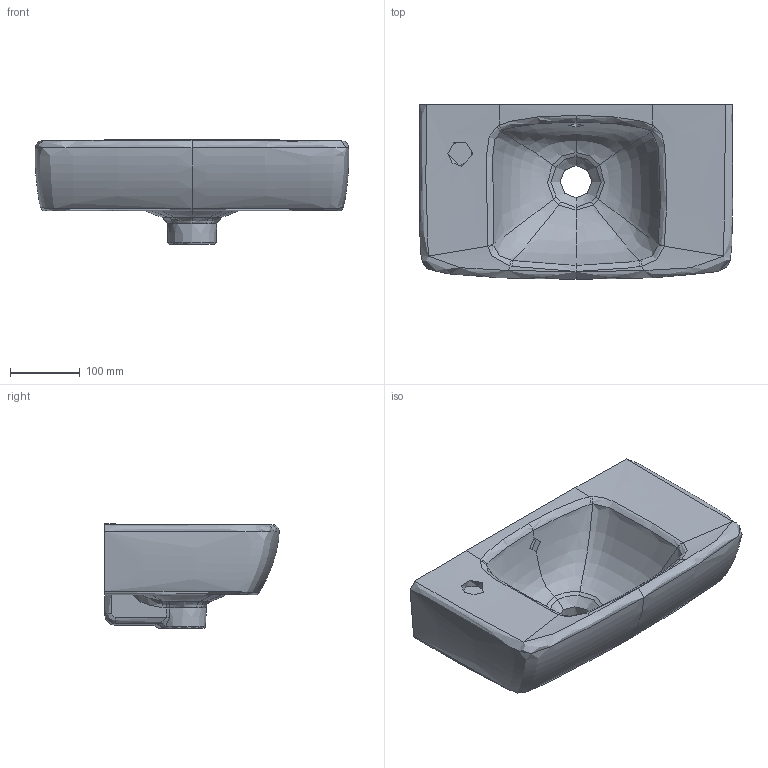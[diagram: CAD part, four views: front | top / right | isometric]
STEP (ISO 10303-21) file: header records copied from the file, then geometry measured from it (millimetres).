
FILE_DESCRIPTION(/* description */ (''),/* implementation_level */ '2;1');
FILE_NAME(/* name */ 'C:\Planerdaten\Export PLA\500.319.01.1\stp\500319.stp',/* time_stamp */ '2020-04-30T12:21:09+02:00',/* author */ ('JANAN'),/* organization */ (''),/* preprocessor_version */ 'ST-DEVELOPER v16.13',/* originating_system */ 'Autodesk Inventor 2018',/* authorisation */ '');
FILE_SCHEMA (('AUTOMOTIVE_DESIGN { 1 0 10303 214 3 1 1 }'));
Products named in the file (1): HWB Ge+SnvCp B45 m/ÜLF m/HLo-li vkA
Bounding box: 448.93 x 250 x 149.61 mm (x, y, z)
Volume: 7165631.4 mm3; surface area: 394025.8 mm2
Topology: 1 solids, 1 shells, 112 faces, 268 edges, 160 vertices
Faces by surface type: bspline 87, plane 12, cylinder 9, sphere 2, cone 1, torus 1
Full cylindrical faces by diameter (mm): 46 x1
Entity records: 34442 total; most frequent: CARTESIAN_POINT 32297, ORIENTED_EDGE 530, EDGE_CURVE 265, DIRECTION 227, VERTEX_POINT 159, B_SPLINE_CURVE_WITH_KNOTS 153, EDGE_LOOP 118, STYLED_ITEM 113
